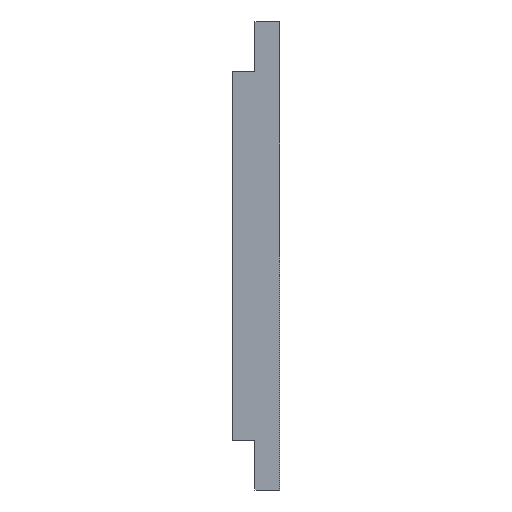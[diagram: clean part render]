
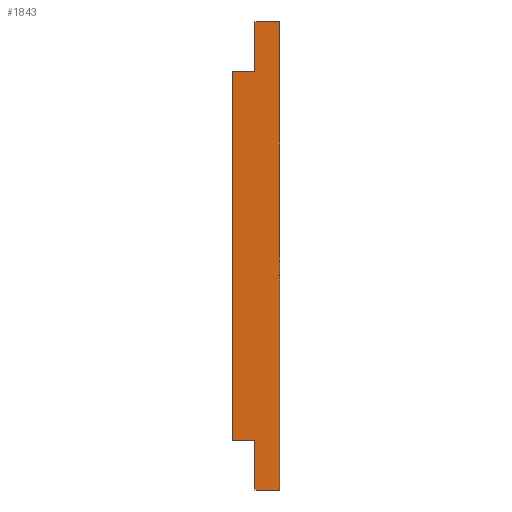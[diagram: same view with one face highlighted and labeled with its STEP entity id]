
A CAD part, left-side view. The second image highlights one B-rep face of the part: STEP entity #1843.
In plain terms, the highlighted planar face has unit normal (-1, 0, -0.026).
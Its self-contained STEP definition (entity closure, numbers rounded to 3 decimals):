
#10 = DIRECTION ( 'NONE',  ( 1., 0., 0.026 ) ) ;
#15 = VERTEX_POINT ( 'NONE', #1947 ) ;
#20 = DIRECTION ( 'NONE',  ( -0.026, 0., 1. ) ) ;
#74 = DIRECTION ( 'NONE',  ( 0., -1., 0. ) ) ;
#101 = EDGE_CURVE ( 'NONE', #256, #2451, #1102, .T. ) ;
#183 = VECTOR ( 'NONE', #74, 1000. ) ;
#223 = DIRECTION ( 'NONE',  ( 0., -1., 0. ) ) ;
#249 = LINE ( 'NONE', #500, #183 ) ;
#256 = VERTEX_POINT ( 'NONE', #1179 ) ;
#268 = CARTESIAN_POINT ( 'NONE',  ( -56.96, 6.1, -58. ) ) ;
#333 = EDGE_CURVE ( 'NONE', #889, #879, #371, .T. ) ;
#367 = ORIENTED_EDGE ( 'NONE', *, *, #2673, .T. ) ;
#371 = LINE ( 'NONE', #1798, #1943 ) ;
#400 = CARTESIAN_POINT ( 'NONE',  ( -59.68, 11.7, 45.8 ) ) ;
#413 = DIRECTION ( 'NONE',  ( 0., -1., 0. ) ) ;
#436 = PLANE ( 'NONE',  #1715 ) ;
#444 = VERTEX_POINT ( 'NONE', #759 ) ;
#458 = DIRECTION ( 'NONE',  ( 0., -1., 0. ) ) ;
#466 = VECTOR ( 'NONE', #2161, 1000. ) ;
#500 = CARTESIAN_POINT ( 'NONE',  ( -57.28, 11.7, -45.8 ) ) ;
#510 = VECTOR ( 'NONE', #20, 1000. ) ;
#724 = VERTEX_POINT ( 'NONE', #2350 ) ;
#733 = CARTESIAN_POINT ( 'NONE',  ( -59.68, 11.7, 45.8 ) ) ;
#747 = LINE ( 'NONE', #1027, #510 ) ;
#754 = ORIENTED_EDGE ( 'NONE', *, *, #2251, .F. ) ;
#759 = CARTESIAN_POINT ( 'NONE',  ( -56.96, 6.1, -58. ) ) ;
#879 = VERTEX_POINT ( 'NONE', #733 ) ;
#889 = VERTEX_POINT ( 'NONE', #951 ) ;
#951 = CARTESIAN_POINT ( 'NONE',  ( -57.28, 11.7, -45.8 ) ) ;
#979 = ORIENTED_EDGE ( 'NONE', *, *, #2067, .T. ) ;
#1027 = CARTESIAN_POINT ( 'NONE',  ( -60., 6.1, 58. ) ) ;
#1070 = CARTESIAN_POINT ( 'NONE',  ( -60., 0., 58. ) ) ;
#1102 = LINE ( 'NONE', #2379, #466 ) ;
#1179 = CARTESIAN_POINT ( 'NONE',  ( -59.68, 6.1, 45.8 ) ) ;
#1454 = ORIENTED_EDGE ( 'NONE', *, *, #2397, .F. ) ;
#1470 = LINE ( 'NONE', #2558, #1951 ) ;
#1491 = VERTEX_POINT ( 'NONE', #1070 ) ;
#1551 = EDGE_LOOP ( 'NONE', ( #367, #2519, #2615, #1454, #1827, #979, #754, #2488 ) ) ;
#1623 = VECTOR ( 'NONE', #223, 1000. ) ;
#1647 = CARTESIAN_POINT ( 'NONE',  ( -60., 6.1, 58. ) ) ;
#1652 = LINE ( 'NONE', #268, #2179 ) ;
#1713 = FACE_OUTER_BOUND ( 'NONE', #1551, .T. ) ;
#1715 = AXIS2_PLACEMENT_3D ( 'NONE', #1647, #10, #2065 ) ;
#1725 = DIRECTION ( 'NONE',  ( -0.026, 0., 1. ) ) ;
#1798 = CARTESIAN_POINT ( 'NONE',  ( -57.28, 11.7, -45.8 ) ) ;
#1827 = ORIENTED_EDGE ( 'NONE', *, *, #333, .F. ) ;
#1843 = ADVANCED_FACE ( 'NONE', ( #1713 ), #436, .F. ) ;
#1943 = VECTOR ( 'NONE', #2243, 1000. ) ;
#1947 = CARTESIAN_POINT ( 'NONE',  ( -56.96, 0., -58. ) ) ;
#1951 = VECTOR ( 'NONE', #1725, 1000. ) ;
#1998 = EDGE_CURVE ( 'NONE', #444, #15, #1652, .T. ) ;
#2065 = DIRECTION ( 'NONE',  ( 0.026, 0., -1. ) ) ;
#2067 = EDGE_CURVE ( 'NONE', #889, #724, #249, .T. ) ;
#2161 = DIRECTION ( 'NONE',  ( -0.026, 0., 1. ) ) ;
#2179 = VECTOR ( 'NONE', #458, 1000. ) ;
#2220 = EDGE_CURVE ( 'NONE', #2451, #1491, #2282, .T. ) ;
#2243 = DIRECTION ( 'NONE',  ( -0.026, 0., 1. ) ) ;
#2251 = EDGE_CURVE ( 'NONE', #444, #724, #747, .T. ) ;
#2260 = CARTESIAN_POINT ( 'NONE',  ( -60., 6.1, 58. ) ) ;
#2282 = LINE ( 'NONE', #2286, #1623 ) ;
#2286 = CARTESIAN_POINT ( 'NONE',  ( -60., 6.1, 58. ) ) ;
#2350 = CARTESIAN_POINT ( 'NONE',  ( -57.28, 6.1, -45.8 ) ) ;
#2379 = CARTESIAN_POINT ( 'NONE',  ( -60., 6.1, 58. ) ) ;
#2397 = EDGE_CURVE ( 'NONE', #879, #256, #2445, .T. ) ;
#2445 = LINE ( 'NONE', #400, #2651 ) ;
#2451 = VERTEX_POINT ( 'NONE', #2260 ) ;
#2488 = ORIENTED_EDGE ( 'NONE', *, *, #1998, .T. ) ;
#2519 = ORIENTED_EDGE ( 'NONE', *, *, #2220, .F. ) ;
#2558 = CARTESIAN_POINT ( 'NONE',  ( -60., 0., 58. ) ) ;
#2615 = ORIENTED_EDGE ( 'NONE', *, *, #101, .F. ) ;
#2651 = VECTOR ( 'NONE', #413, 1000. ) ;
#2673 = EDGE_CURVE ( 'NONE', #15, #1491, #1470, .T. ) ;
